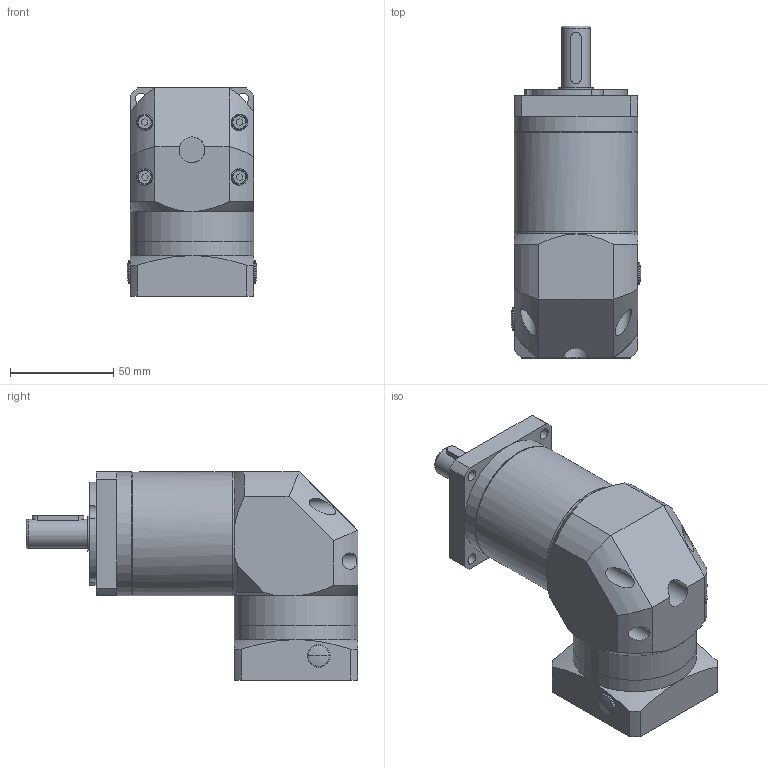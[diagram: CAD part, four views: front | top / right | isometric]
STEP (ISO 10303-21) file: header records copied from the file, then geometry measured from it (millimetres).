
FILE_DESCRIPTION(/* description */ (''),/* implementation_level */ '2;1');
FILE_NAME(/* name */ 'ZPF-060-L2(14-50-70-M4)(输出轴径14）.stp',/* time_stamp */ '2022-07-04T19:41:15+08:00',/* author */ (''),/* organization */ (''),/* preprocessor_version */ 'ST-DEVELOPER v16',/* originating_system */ 'SIEMENS PLM Software NX 10.0',/* authorisation */ '');
FILE_SCHEMA (('AP203_CONFIGURATION_CONTROLLED_3D_DESIGN_OF_MECHANICAL_PARTS_AND_ASSEMBLIES_MIM_LF { 1 0 10303 403 2 1 2}'));
Length unit declared in the file: millimetre
Products named in the file (1): ZPF-060-L2_14-50-70-M4__输出轴径14\X2\FF09
\X0\_stp
Bounding box: 63 x 160.9 x 101 mm (x, y, z)
Volume: 334150 mm3; surface area: 121237.4 mm2
Topology: 109 solids, 109 shells, 1756 faces, 4434 edges, 2942 vertices
Faces by surface type: cylinder 554, plane 485, extrusion 432, cone 90, sphere 80, torus 76, bspline 39
Full cylindrical faces by diameter (mm): 1.5 x74, 3.1 x4, 3.3 x16, 4.2 x3, 4.5 x12, 5.5 x6, 7.5 x4, 8 x6, 12.5 x1, 14 x2, 14.2 x2, 14.9 x1, 15 x1, 16.2 x1, 17 x4, 20 x1, 20.5 x1, 21 x1, 23.808 x2, 29 x1, 30 x1, 32.805 x2, 35 x2, 36 x3, 37 x1, 40 x2, 43 x1, 47 x6, 60 x5
Entity records: 110774 total; most frequent: CARTESIAN_POINT 70922, ORIENTED_EDGE 8260, DIRECTION 7351, EDGE_CURVE 4130, VERTEX_POINT 2883, AXIS2_PLACEMENT_3D 2809, EDGE_LOOP 2132, ADVANCED_FACE 1755
